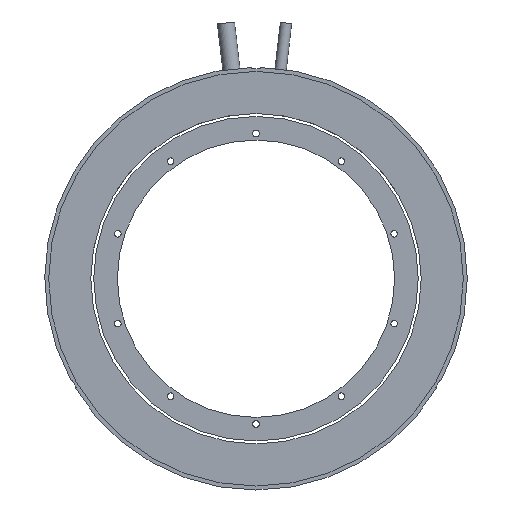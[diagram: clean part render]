
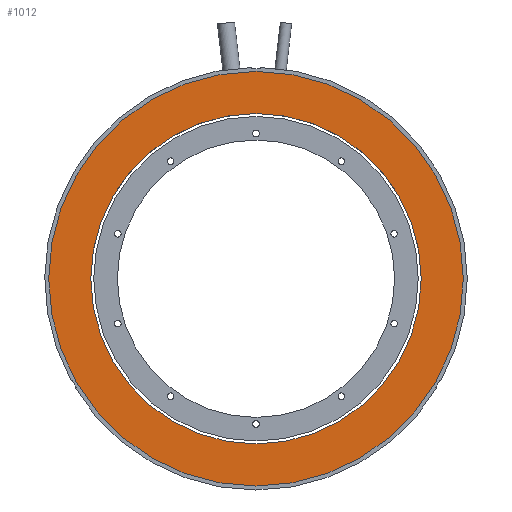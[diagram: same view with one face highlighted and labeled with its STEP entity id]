
A CAD part, front view. The second image highlights one B-rep face of the part: STEP entity #1012.
In plain terms, the highlighted planar face has unit normal (0, -1, 0) as drawn and (0, 0, -1) by its records, which use the part's own axes.
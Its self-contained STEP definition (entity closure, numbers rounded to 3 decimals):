
#10 = CIRCLE ( 'NONE', #1549, 62.55 ) ;
#41 = DIRECTION ( 'NONE',  ( 0., 0., -1. ) ) ;
#377 = AXIS2_PLACEMENT_3D ( 'NONE', #1085, #41, #573 ) ;
#396 = FACE_OUTER_BOUND ( 'NONE', #641, .T. ) ;
#446 = DIRECTION ( 'NONE',  ( 0., 0., 1. ) ) ;
#479 = ORIENTED_EDGE ( 'NONE', *, *, #764, .T. ) ;
#561 = CARTESIAN_POINT ( 'NONE',  ( 0., 0., 0. ) ) ;
#571 = EDGE_CURVE ( 'NONE', #1289, #1111, #10, .T. ) ;
#573 = DIRECTION ( 'NONE',  ( 0., -1., 0. ) ) ;
#596 = VERTEX_POINT ( 'NONE', #1851 ) ;
#607 = CIRCLE ( 'NONE', #899, 78.5 ) ;
#608 = CARTESIAN_POINT ( 'NONE',  ( 62.55, 0., 0. ) ) ;
#641 = EDGE_LOOP ( 'NONE', ( #2055, #667 ) ) ;
#667 = ORIENTED_EDGE ( 'NONE', *, *, #1052, .F. ) ;
#720 = CIRCLE ( 'NONE', #1022, 62.55 ) ;
#764 = EDGE_CURVE ( 'NONE', #1111, #1289, #720, .T. ) ;
#872 = DIRECTION ( 'NONE',  ( 0., 0., 1. ) ) ;
#899 = AXIS2_PLACEMENT_3D ( 'NONE', #561, #1950, #1771 ) ;
#1012 = ADVANCED_FACE ( 'NONE', ( #1428, #396 ), #1265, .T. ) ;
#1022 = AXIS2_PLACEMENT_3D ( 'NONE', #1192, #872, #1393 ) ;
#1046 = VERTEX_POINT ( 'NONE', #1449 ) ;
#1052 = EDGE_CURVE ( 'NONE', #1046, #596, #607, .T. ) ;
#1085 = CARTESIAN_POINT ( 'NONE',  ( 78.5, 0., 0. ) ) ;
#1111 = VERTEX_POINT ( 'NONE', #1787 ) ;
#1154 = CARTESIAN_POINT ( 'NONE',  ( 0., 0., 0. ) ) ;
#1164 = DIRECTION ( 'NONE',  ( 0., 0., 1. ) ) ;
#1192 = CARTESIAN_POINT ( 'NONE',  ( 0., 0., 0. ) ) ;
#1265 = PLANE ( 'NONE',  #377 ) ;
#1289 = VERTEX_POINT ( 'NONE', #608 ) ;
#1302 = DIRECTION ( 'NONE',  ( 1., 0., 0. ) ) ;
#1393 = DIRECTION ( 'NONE',  ( 1., 0., 0. ) ) ;
#1428 = FACE_BOUND ( 'NONE', #1742, .T. ) ;
#1449 = CARTESIAN_POINT ( 'NONE',  ( -78.5, 0., 0. ) ) ;
#1549 = AXIS2_PLACEMENT_3D ( 'NONE', #1154, #446, #1302 ) ;
#1565 = EDGE_CURVE ( 'NONE', #596, #1046, #1881, .T. ) ;
#1742 = EDGE_LOOP ( 'NONE', ( #2296, #479 ) ) ;
#1771 = DIRECTION ( 'NONE',  ( 1., 0., 0. ) ) ;
#1787 = CARTESIAN_POINT ( 'NONE',  ( -62.55, 0., 0. ) ) ;
#1839 = AXIS2_PLACEMENT_3D ( 'NONE', #2210, #1164, #1859 ) ;
#1851 = CARTESIAN_POINT ( 'NONE',  ( 78.5, 0., 0. ) ) ;
#1859 = DIRECTION ( 'NONE',  ( 1., 0., 0. ) ) ;
#1881 = CIRCLE ( 'NONE', #1839, 78.5 ) ;
#1950 = DIRECTION ( 'NONE',  ( 0., 0., 1. ) ) ;
#2055 = ORIENTED_EDGE ( 'NONE', *, *, #1565, .F. ) ;
#2210 = CARTESIAN_POINT ( 'NONE',  ( 0., 0., 0. ) ) ;
#2296 = ORIENTED_EDGE ( 'NONE', *, *, #571, .T. ) ;
